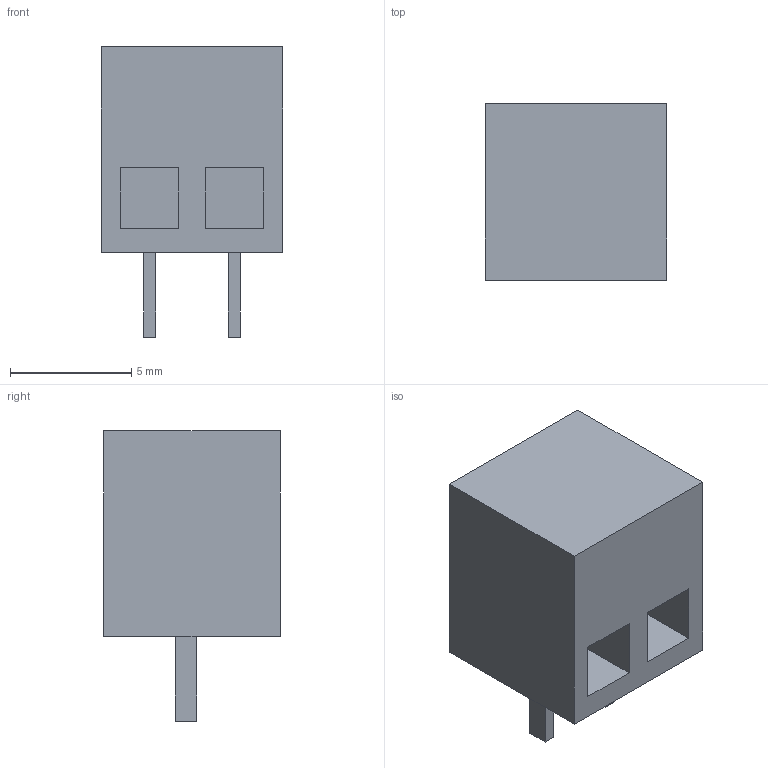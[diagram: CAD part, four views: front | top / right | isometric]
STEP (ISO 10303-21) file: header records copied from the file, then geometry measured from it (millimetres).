
FILE_DESCRIPTION(('FreeCAD Model'),'2;1');
FILE_NAME('Open CASCADE Shape Model','2026-10-15T16:03:42',('FreeCAD'),( 'FreeCAD'),'Open CASCADE STEP processor 7.9','FreeCAD','Unknown');
FILE_SCHEMA(('AUTOMOTIVE_DESIGN { 1 0 10303 214 1 1 1 1 }'));
Length unit declared in the file: millimetre
Products named in the file (1): Open CASCADE STEP translator 7.9 3
Bounding box: 7.5 x 7.3 x 12 mm (x, y, z)
Volume: 433.7 mm3; surface area: 439.3 mm2
Topology: 3 solids, 3 shells, 28 faces, 60 edges, 40 vertices
Faces by surface type: plane 28
Entity records: 750 total; most frequent: CARTESIAN_POINT 129, ORIENTED_EDGE 120, DIRECTION 118, EDGE_CURVE 60, LINE 60, VECTOR 60, VERTEX_POINT 40, FACE_BOUND 30
